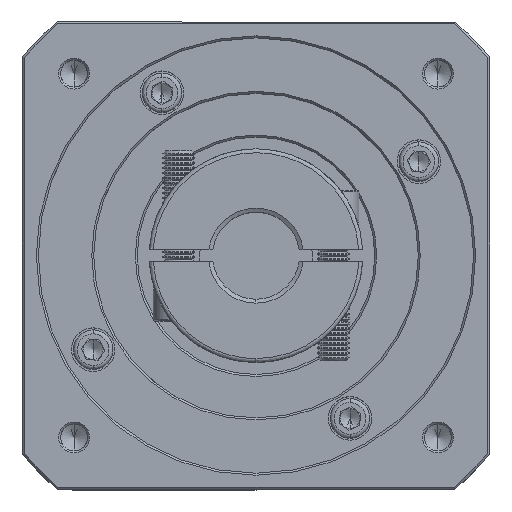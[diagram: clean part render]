
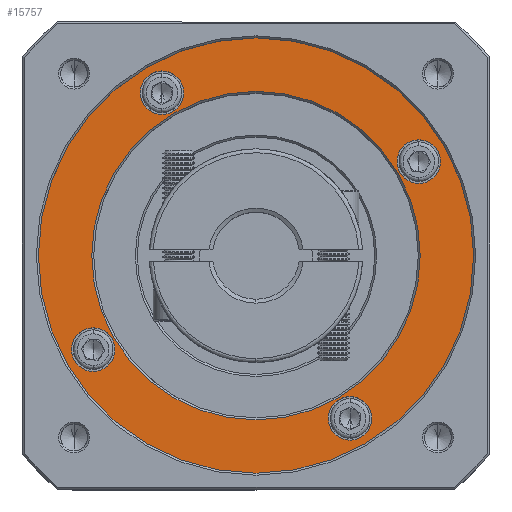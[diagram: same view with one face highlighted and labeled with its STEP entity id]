
A CAD part, top view. The second image highlights one B-rep face of the part: STEP entity #15757.
In plain terms, the highlighted planar face has unit normal (0, 0, 1).
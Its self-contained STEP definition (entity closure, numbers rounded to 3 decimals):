
#289 = AXIS2_PLACEMENT_3D ( 'NONE', #56176, #86411, #54825 ) ;
#2982 = DIRECTION ( 'NONE',  ( 0., 0., 1. ) ) ;
#4314 = CIRCLE ( 'NONE', #25008, 5.5 ) ;
#5304 = PLANE ( 'NONE',  #289 ) ;
#5606 = DIRECTION ( 'NONE',  ( 0., 0., -1. ) ) ;
#6222 = CARTESIAN_POINT ( 'NONE',  ( 20.73, 56.473, -2.927 ) ) ;
#6881 = EDGE_LOOP ( 'NONE', ( #8534, #128222 ) ) ;
#8174 = DIRECTION ( 'NONE',  ( 0., -1., 0. ) ) ;
#8252 = CIRCLE ( 'NONE', #97760, 5.5 ) ;
#8534 = ORIENTED_EDGE ( 'NONE', *, *, #59254, .T. ) ;
#8885 = DIRECTION ( 'NONE',  ( 0., 0., 1. ) ) ;
#8904 = DIRECTION ( 'NONE',  ( 0., -1., 0. ) ) ;
#9033 = CARTESIAN_POINT ( 'NONE',  ( 103.73, 56.473, -2.927 ) ) ;
#9512 = CARTESIAN_POINT ( 'NONE',  ( 21.094, 32.723, -2.927 ) ) ;
#11414 = EDGE_LOOP ( 'NONE', ( #34000, #60750 ) ) ;
#12408 = FACE_BOUND ( 'NONE', #79341, .T. ) ;
#13582 = ORIENTED_EDGE ( 'NONE', *, *, #124737, .T. ) ;
#15757 = ADVANCED_FACE ( 'NONE', ( #121957, #12408, #46280, #28587, #62413, #30137 ), #5304, .T. ) ;
#15907 = CARTESIAN_POINT ( 'NONE',  ( 103.366, 80.223, -2.927 ) ) ;
#15940 = EDGE_CURVE ( 'NONE', #80474, #116076, #105849, .T. ) ;
#16402 = EDGE_CURVE ( 'NONE', #126355, #29756, #93060, .T. ) ;
#17501 = CARTESIAN_POINT ( 'NONE',  ( 85.98, 9.837, -2.927 ) ) ;
#19035 = VERTEX_POINT ( 'NONE', #77980 ) ;
#19205 = CARTESIAN_POINT ( 'NONE',  ( 62.23, 56.473, -2.927 ) ) ;
#25008 = AXIS2_PLACEMENT_3D ( 'NONE', #112435, #48980, #8904 ) ;
#25800 = AXIS2_PLACEMENT_3D ( 'NONE', #85182, #105366, #115254 ) ;
#26908 = EDGE_CURVE ( 'NONE', #85952, #92511, #120118, .T. ) ;
#27347 = DIRECTION ( 'NONE',  ( 0., -1., 0. ) ) ;
#27596 = DIRECTION ( 'NONE',  ( -1., 0., 0. ) ) ;
#28439 = CARTESIAN_POINT ( 'NONE',  ( 103.366, 85.723, -2.927 ) ) ;
#28587 = FACE_BOUND ( 'NONE', #11414, .T. ) ;
#28673 = EDGE_CURVE ( 'NONE', #94873, #110578, #83942, .T. ) ;
#28913 = AXIS2_PLACEMENT_3D ( 'NONE', #15907, #5606, #36254 ) ;
#29756 = VERTEX_POINT ( 'NONE', #81575 ) ;
#30137 = FACE_BOUND ( 'NONE', #99839, .T. ) ;
#31909 = CARTESIAN_POINT ( 'NONE',  ( 21.094, 38.223, -2.927 ) ) ;
#33596 = CARTESIAN_POINT ( 'NONE',  ( 62.23, 56.473, -2.927 ) ) ;
#34000 = ORIENTED_EDGE ( 'NONE', *, *, #131247, .T. ) ;
#34036 = DIRECTION ( 'NONE',  ( 0., -1., 0. ) ) ;
#34523 = DIRECTION ( 'NONE',  ( 0., -1., 0. ) ) ;
#36254 = DIRECTION ( 'NONE',  ( 0., -1., 0. ) ) ;
#36647 = CIRCLE ( 'NONE', #75326, 41.5 ) ;
#39699 = AXIS2_PLACEMENT_3D ( 'NONE', #9512, #90617, #8174 ) ;
#41306 = ORIENTED_EDGE ( 'NONE', *, *, #73372, .T. ) ;
#42138 = EDGE_CURVE ( 'NONE', #19035, #77614, #52542, .T. ) ;
#46280 = FACE_BOUND ( 'NONE', #72886, .T. ) ;
#46939 = CARTESIAN_POINT ( 'NONE',  ( 62.23, 56.473, -2.927 ) ) ;
#48275 = DIRECTION ( 'NONE',  ( 0., 0., -1. ) ) ;
#48980 = DIRECTION ( 'NONE',  ( 0., 0., -1. ) ) ;
#49165 = CARTESIAN_POINT ( 'NONE',  ( 21.094, 32.723, -2.927 ) ) ;
#52542 = CIRCLE ( 'NONE', #81978, 55. ) ;
#53933 = CARTESIAN_POINT ( 'NONE',  ( 21.094, 27.223, -2.927 ) ) ;
#54204 = VERTEX_POINT ( 'NONE', #54908 ) ;
#54825 = DIRECTION ( 'NONE',  ( 0., -1., 0. ) ) ;
#54908 = CARTESIAN_POINT ( 'NONE',  ( 85.98, 20.837, -2.927 ) ) ;
#55129 = CIRCLE ( 'NONE', #129436, 5.5 ) ;
#55172 = DIRECTION ( 'NONE',  ( 0., 0., -1. ) ) ;
#55671 = CIRCLE ( 'NONE', #92414, 55. ) ;
#56176 = CARTESIAN_POINT ( 'NONE',  ( 62.23, 56.473, -2.927 ) ) ;
#57000 = EDGE_LOOP ( 'NONE', ( #120016, #41306 ) ) ;
#58944 = DIRECTION ( 'NONE',  ( 0., 0., -1. ) ) ;
#59254 = EDGE_CURVE ( 'NONE', #29756, #126355, #8252, .T. ) ;
#59379 = CARTESIAN_POINT ( 'NONE',  ( 103.366, 80.223, -2.927 ) ) ;
#60750 = ORIENTED_EDGE ( 'NONE', *, *, #28673, .T. ) ;
#62413 = FACE_BOUND ( 'NONE', #6881, .T. ) ;
#64919 = EDGE_CURVE ( 'NONE', #92511, #85952, #36647, .T. ) ;
#66973 = ORIENTED_EDGE ( 'NONE', *, *, #26908, .T. ) ;
#68140 = ORIENTED_EDGE ( 'NONE', *, *, #64919, .T. ) ;
#68305 = DIRECTION ( 'NONE',  ( 0., 0., -1. ) ) ;
#68382 = DIRECTION ( 'NONE',  ( 0., 0., -1. ) ) ;
#68879 = ORIENTED_EDGE ( 'NONE', *, *, #15940, .T. ) ;
#70094 = ORIENTED_EDGE ( 'NONE', *, *, #88936, .T. ) ;
#72886 = EDGE_LOOP ( 'NONE', ( #13582, #70094 ) ) ;
#73372 = EDGE_CURVE ( 'NONE', #77614, #19035, #55671, .T. ) ;
#75326 = AXIS2_PLACEMENT_3D ( 'NONE', #109339, #68382, #129183 ) ;
#77614 = VERTEX_POINT ( 'NONE', #120231 ) ;
#77980 = CARTESIAN_POINT ( 'NONE',  ( 62.23, 1.473, -2.927 ) ) ;
#79341 = EDGE_LOOP ( 'NONE', ( #68140, #66973 ) ) ;
#80146 = CARTESIAN_POINT ( 'NONE',  ( 38.48, 92.109, -2.927 ) ) ;
#80474 = VERTEX_POINT ( 'NONE', #80146 ) ;
#81575 = CARTESIAN_POINT ( 'NONE',  ( 103.366, 74.723, -2.927 ) ) ;
#81978 = AXIS2_PLACEMENT_3D ( 'NONE', #19205, #8885, #132281 ) ;
#83942 = CIRCLE ( 'NONE', #39699, 5.5 ) ;
#85182 = CARTESIAN_POINT ( 'NONE',  ( 85.98, 15.337, -2.927 ) ) ;
#85952 = VERTEX_POINT ( 'NONE', #9033 ) ;
#86308 = CARTESIAN_POINT ( 'NONE',  ( 85.98, 15.337, -2.927 ) ) ;
#86411 = DIRECTION ( 'NONE',  ( 0., 0., 1. ) ) ;
#88142 = CARTESIAN_POINT ( 'NONE',  ( 38.48, 97.609, -2.927 ) ) ;
#88936 = EDGE_CURVE ( 'NONE', #54204, #105389, #107653, .T. ) ;
#89263 = EDGE_CURVE ( 'NONE', #116076, #80474, #4314, .T. ) ;
#90617 = DIRECTION ( 'NONE',  ( 0., 0., -1. ) ) ;
#92414 = AXIS2_PLACEMENT_3D ( 'NONE', #33596, #2982, #34036 ) ;
#92511 = VERTEX_POINT ( 'NONE', #6222 ) ;
#93060 = CIRCLE ( 'NONE', #28913, 5.5 ) ;
#93441 = ORIENTED_EDGE ( 'NONE', *, *, #89263, .T. ) ;
#94873 = VERTEX_POINT ( 'NONE', #31909 ) ;
#97760 = AXIS2_PLACEMENT_3D ( 'NONE', #59379, #58944, #130574 ) ;
#99839 = EDGE_LOOP ( 'NONE', ( #68879, #93441 ) ) ;
#100529 = DIRECTION ( 'NONE',  ( 0., -1., 0. ) ) ;
#105366 = DIRECTION ( 'NONE',  ( 0., 0., -1. ) ) ;
#105389 = VERTEX_POINT ( 'NONE', #17501 ) ;
#105849 = CIRCLE ( 'NONE', #131485, 5.5 ) ;
#107653 = CIRCLE ( 'NONE', #25800, 5.5 ) ;
#109339 = CARTESIAN_POINT ( 'NONE',  ( 62.23, 56.473, -2.927 ) ) ;
#110578 = VERTEX_POINT ( 'NONE', #53933 ) ;
#111144 = AXIS2_PLACEMENT_3D ( 'NONE', #49165, #111276, #100529 ) ;
#111276 = DIRECTION ( 'NONE',  ( 0., 0., -1. ) ) ;
#112435 = CARTESIAN_POINT ( 'NONE',  ( 38.48, 97.609, -2.927 ) ) ;
#114302 = CARTESIAN_POINT ( 'NONE',  ( 38.48, 103.109, -2.927 ) ) ;
#115141 = AXIS2_PLACEMENT_3D ( 'NONE', #46939, #48275, #27596 ) ;
#115142 = CIRCLE ( 'NONE', #111144, 5.5 ) ;
#115254 = DIRECTION ( 'NONE',  ( 0., -1., 0. ) ) ;
#116076 = VERTEX_POINT ( 'NONE', #114302 ) ;
#120016 = ORIENTED_EDGE ( 'NONE', *, *, #42138, .T. ) ;
#120118 = CIRCLE ( 'NONE', #115141, 41.5 ) ;
#120231 = CARTESIAN_POINT ( 'NONE',  ( 62.23, 111.473, -2.927 ) ) ;
#121957 = FACE_OUTER_BOUND ( 'NONE', #57000, .T. ) ;
#124737 = EDGE_CURVE ( 'NONE', #105389, #54204, #55129, .T. ) ;
#126355 = VERTEX_POINT ( 'NONE', #28439 ) ;
#128222 = ORIENTED_EDGE ( 'NONE', *, *, #16402, .T. ) ;
#129183 = DIRECTION ( 'NONE',  ( -1., 0., 0. ) ) ;
#129436 = AXIS2_PLACEMENT_3D ( 'NONE', #86308, #55172, #34523 ) ;
#130574 = DIRECTION ( 'NONE',  ( 0., -1., 0. ) ) ;
#131247 = EDGE_CURVE ( 'NONE', #110578, #94873, #115142, .T. ) ;
#131485 = AXIS2_PLACEMENT_3D ( 'NONE', #88142, #68305, #27347 ) ;
#132281 = DIRECTION ( 'NONE',  ( 0., -1., 0. ) ) ;
